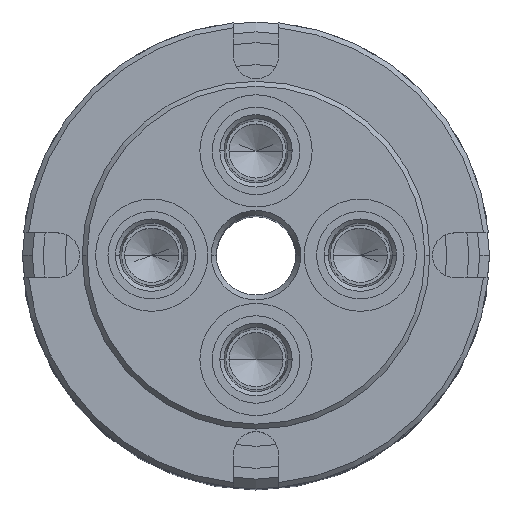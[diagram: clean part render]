
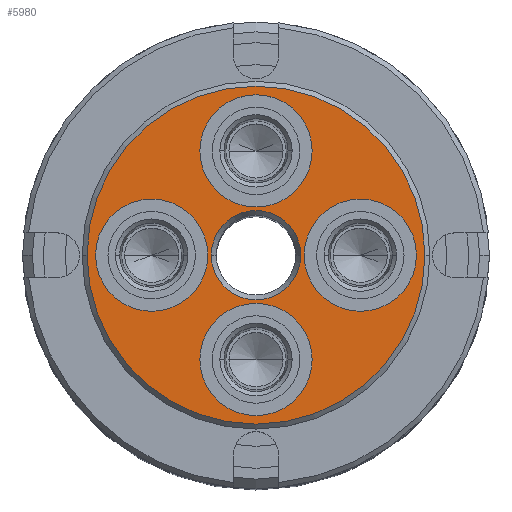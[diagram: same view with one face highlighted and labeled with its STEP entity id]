
A CAD part, top view. The second image highlights one B-rep face of the part: STEP entity #5980.
In plain terms, the highlighted planar face has unit normal (0, 0, 1).
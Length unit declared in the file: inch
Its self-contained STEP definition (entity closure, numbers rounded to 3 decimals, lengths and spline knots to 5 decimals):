
#10 = CARTESIAN_POINT ( 'NONE',  ( 0.353, 0.656, 0. ) ) ;
#39 = CARTESIAN_POINT ( 'NONE',  ( -1.0625, 0., 0. ) ) ;
#48 = CARTESIAN_POINT ( 'NONE',  ( -0.353, 0.656, 0. ) ) ;
#81 = CARTESIAN_POINT ( 'NONE',  ( 0.303, 0., 0. ) ) ;
#90 = CARTESIAN_POINT ( 'NONE',  ( 0.656, 0., 0. ) ) ;
#91 = DIRECTION ( 'NONE',  ( 0., 0., 1. ) ) ;
#92 = DIRECTION ( 'NONE',  ( 0., -1., 0. ) ) ;
#248 = CARTESIAN_POINT ( 'NONE',  ( 0., 0., 0. ) ) ;
#249 = DIRECTION ( 'NONE',  ( 0., 0., -1. ) ) ;
#250 = DIRECTION ( 'NONE',  ( -1., 0., 0. ) ) ;
#701 = CARTESIAN_POINT ( 'NONE',  ( -0.656, 0., 0. ) ) ;
#702 = DIRECTION ( 'NONE',  ( 0., 0., 1. ) ) ;
#703 = DIRECTION ( 'NONE',  ( 0., 1., 0. ) ) ;
#784 = CARTESIAN_POINT ( 'NONE',  ( 0., 0., 0. ) ) ;
#785 = DIRECTION ( 'NONE',  ( 0., 0., 1. ) ) ;
#786 = DIRECTION ( 'NONE',  ( -1., 0., 0. ) ) ;
#1031 = EDGE_LOOP ( 'NONE', ( #1590, #1589 ) ) ;
#1032 = EDGE_LOOP ( 'NONE', ( #1594, #1593 ) ) ;
#1034 = EDGE_LOOP ( 'NONE', ( #1596, #1595 ) ) ;
#1037 = EDGE_LOOP ( 'NONE', ( #1598, #1597 ) ) ;
#1041 = EDGE_LOOP ( 'NONE', ( #1588, #1587 ) ) ;
#1044 = EDGE_LOOP ( 'NONE', ( #1592, #1591 ) ) ;
#1587 = ORIENTED_EDGE ( 'NONE', *, *, #5528, .T. ) ;
#1588 = ORIENTED_EDGE ( 'NONE', *, *, #6081, .T. ) ;
#1589 = ORIENTED_EDGE ( 'NONE', *, *, #6099, .F. ) ;
#1590 = ORIENTED_EDGE ( 'NONE', *, *, #5819, .F. ) ;
#1591 = ORIENTED_EDGE ( 'NONE', *, *, #5727, .F. ) ;
#1592 = ORIENTED_EDGE ( 'NONE', *, *, #5373, .F. ) ;
#1593 = ORIENTED_EDGE ( 'NONE', *, *, #5903, .F. ) ;
#1594 = ORIENTED_EDGE ( 'NONE', *, *, #5831, .F. ) ;
#1595 = ORIENTED_EDGE ( 'NONE', *, *, #5506, .F. ) ;
#1596 = ORIENTED_EDGE ( 'NONE', *, *, #5696, .F. ) ;
#1597 = ORIENTED_EDGE ( 'NONE', *, *, #5411, .T. ) ;
#1598 = ORIENTED_EDGE ( 'NONE', *, *, #5848, .T. ) ;
#2013 = VERTEX_POINT ( 'NONE', #2246 ) ;
#2022 = VERTEX_POINT ( 'NONE', #2253 ) ;
#2026 = VERTEX_POINT ( 'NONE', #2257 ) ;
#2066 = VERTEX_POINT ( 'NONE', #2297 ) ;
#2074 = VERTEX_POINT ( 'NONE', #2305 ) ;
#2075 = VERTEX_POINT ( 'NONE', #2306 ) ;
#2120 = VERTEX_POINT ( 'NONE', #2351 ) ;
#2145 = VERTEX_POINT ( 'NONE', #2376 ) ;
#2173 = VERTEX_POINT ( 'NONE', #10 ) ;
#2202 = VERTEX_POINT ( 'NONE', #39 ) ;
#2211 = VERTEX_POINT ( 'NONE', #48 ) ;
#2244 = VERTEX_POINT ( 'NONE', #81 ) ;
#2246 = CARTESIAN_POINT ( 'NONE',  ( 1.009, 0., 0. ) ) ;
#2253 = CARTESIAN_POINT ( 'NONE',  ( 0.353, -0.656, 0. ) ) ;
#2257 = CARTESIAN_POINT ( 'NONE',  ( -0.353, -0.656, 0. ) ) ;
#2297 = CARTESIAN_POINT ( 'NONE',  ( 0.281, 0., 0. ) ) ;
#2305 = CARTESIAN_POINT ( 'NONE',  ( -0.303, 0., 0. ) ) ;
#2306 = CARTESIAN_POINT ( 'NONE',  ( -1.009, 0., 0. ) ) ;
#2351 = CARTESIAN_POINT ( 'NONE',  ( -0.281, 0., 0. ) ) ;
#2376 = CARTESIAN_POINT ( 'NONE',  ( 1.0625, 0., 0. ) ) ;
#2960 = CARTESIAN_POINT ( 'NONE',  ( 0., 0., 0. ) ) ;
#2961 = DIRECTION ( 'NONE',  ( 0., 0., 1. ) ) ;
#2962 = DIRECTION ( 'NONE',  ( -1., 0., 0. ) ) ;
#3053 = CARTESIAN_POINT ( 'NONE',  ( 0., 0.656, 0. ) ) ;
#3054 = DIRECTION ( 'NONE',  ( 0., 0., 1. ) ) ;
#3055 = DIRECTION ( 'NONE',  ( 1., 0., 0. ) ) ;
#3413 = CARTESIAN_POINT ( 'NONE',  ( 0., 0., 0. ) ) ;
#3414 = DIRECTION ( 'NONE',  ( 0., 0., -1. ) ) ;
#3415 = DIRECTION ( 'NONE',  ( -1., 0., 0. ) ) ;
#3668 = CARTESIAN_POINT ( 'NONE',  ( 0., -0.656, 0. ) ) ;
#3669 = DIRECTION ( 'NONE',  ( 0., 0., 1. ) ) ;
#3670 = DIRECTION ( 'NONE',  ( -1., 0., 0. ) ) ;
#4072 = FACE_BOUND ( 'NONE', #1044, .T. ) ;
#4075 = FACE_BOUND ( 'NONE', #1031, .T. ) ;
#4076 = FACE_BOUND ( 'NONE', #1037, .T. ) ;
#4077 = FACE_BOUND ( 'NONE', #1034, .T. ) ;
#4081 = FACE_OUTER_BOUND ( 'NONE', #1041, .T. ) ;
#4082 = PLANE ( 'NONE',  #5096 ) ;
#4083 = FACE_BOUND ( 'NONE', #1032, .T. ) ;
#4085 = CARTESIAN_POINT ( 'NONE',  ( 0., 0., 0. ) ) ;
#4086 = DIRECTION ( 'NONE',  ( 0., 0., -1. ) ) ;
#4087 = DIRECTION ( 'NONE',  ( -1., 0., 0. ) ) ;
#4397 = CIRCLE ( 'NONE', #5075, 0.353 ) ;
#4404 = AXIS2_PLACEMENT_3D ( 'NONE', #3413, #3414, #3415 ) ;
#4407 = AXIS2_PLACEMENT_3D ( 'NONE', #7260, #7261, #7262 ) ;
#4485 = CIRCLE ( 'NONE', #4630, 0.281 ) ;
#4513 = CIRCLE ( 'NONE', #4563, 0.353 ) ;
#4563 = AXIS2_PLACEMENT_3D ( 'NONE', #3668, #3669, #3670 ) ;
#4577 = AXIS2_PLACEMENT_3D ( 'NONE', #701, #702, #703 ) ;
#4585 = CIRCLE ( 'NONE', #4404, 0.281 ) ;
#4626 = CIRCLE ( 'NONE', #4577, 0.353 ) ;
#4629 = AXIS2_PLACEMENT_3D ( 'NONE', #90, #91, #92 ) ;
#4630 = AXIS2_PLACEMENT_3D ( 'NONE', #248, #249, #250 ) ;
#4641 = AXIS2_PLACEMENT_3D ( 'NONE', #784, #785, #786 ) ;
#4642 = CIRCLE ( 'NONE', #4641, 1.0625 ) ;
#4696 = CIRCLE ( 'NONE', #4629, 0.353 ) ;
#4724 = AXIS2_PLACEMENT_3D ( 'NONE', #6602, #6603, #6604 ) ;
#4912 = AXIS2_PLACEMENT_3D ( 'NONE', #6738, #6739, #6740 ) ;
#5048 = CIRCLE ( 'NONE', #4407, 0.353 ) ;
#5075 = AXIS2_PLACEMENT_3D ( 'NONE', #7141, #7142, #7143 ) ;
#5096 = AXIS2_PLACEMENT_3D ( 'NONE', #4085, #4086, #4087 ) ;
#5164 = CIRCLE ( 'NONE', #4912, 0.353 ) ;
#5317 = CIRCLE ( 'NONE', #4724, 0.353 ) ;
#5373 = EDGE_CURVE ( 'NONE', #2013, #2244, #4696, .T. ) ;
#5411 = EDGE_CURVE ( 'NONE', #2120, #2066, #4485, .T. ) ;
#5506 = EDGE_CURVE ( 'NONE', #2075, #2074, #4626, .T. ) ;
#5528 = EDGE_CURVE ( 'NONE', #2145, #2202, #4642, .T. ) ;
#5696 = EDGE_CURVE ( 'NONE', #2074, #2075, #5317, .T. ) ;
#5727 = EDGE_CURVE ( 'NONE', #2244, #2013, #5164, .T. ) ;
#5742 = CIRCLE ( 'NONE', #6220, 0.353 ) ;
#5819 = EDGE_CURVE ( 'NONE', #2173, #2211, #4397, .T. ) ;
#5831 = EDGE_CURVE ( 'NONE', #2022, #2026, #5048, .T. ) ;
#5848 = EDGE_CURVE ( 'NONE', #2066, #2120, #4585, .T. ) ;
#5903 = EDGE_CURVE ( 'NONE', #2026, #2022, #4513, .T. ) ;
#5980 = ADVANCED_FACE ( 'NONE', ( #4076, #4077, #4083, #4072, #4075, #4081 ), #4082, .F. ) ;
#6081 = EDGE_CURVE ( 'NONE', #2202, #2145, #6246, .T. ) ;
#6099 = EDGE_CURVE ( 'NONE', #2211, #2173, #5742, .T. ) ;
#6220 = AXIS2_PLACEMENT_3D ( 'NONE', #3053, #3054, #3055 ) ;
#6236 = AXIS2_PLACEMENT_3D ( 'NONE', #2960, #2961, #2962 ) ;
#6246 = CIRCLE ( 'NONE', #6236, 1.0625 ) ;
#6602 = CARTESIAN_POINT ( 'NONE',  ( -0.656, 0., 0. ) ) ;
#6603 = DIRECTION ( 'NONE',  ( 0., 0., 1. ) ) ;
#6604 = DIRECTION ( 'NONE',  ( 0., 1., 0. ) ) ;
#6738 = CARTESIAN_POINT ( 'NONE',  ( 0.656, 0., 0. ) ) ;
#6739 = DIRECTION ( 'NONE',  ( 0., 0., 1. ) ) ;
#6740 = DIRECTION ( 'NONE',  ( 0., -1., 0. ) ) ;
#7141 = CARTESIAN_POINT ( 'NONE',  ( 0., 0.656, 0. ) ) ;
#7142 = DIRECTION ( 'NONE',  ( 0., 0., 1. ) ) ;
#7143 = DIRECTION ( 'NONE',  ( 1., 0., 0. ) ) ;
#7260 = CARTESIAN_POINT ( 'NONE',  ( 0., -0.656, 0. ) ) ;
#7261 = DIRECTION ( 'NONE',  ( 0., 0., 1. ) ) ;
#7262 = DIRECTION ( 'NONE',  ( -1., 0., 0. ) ) ;
